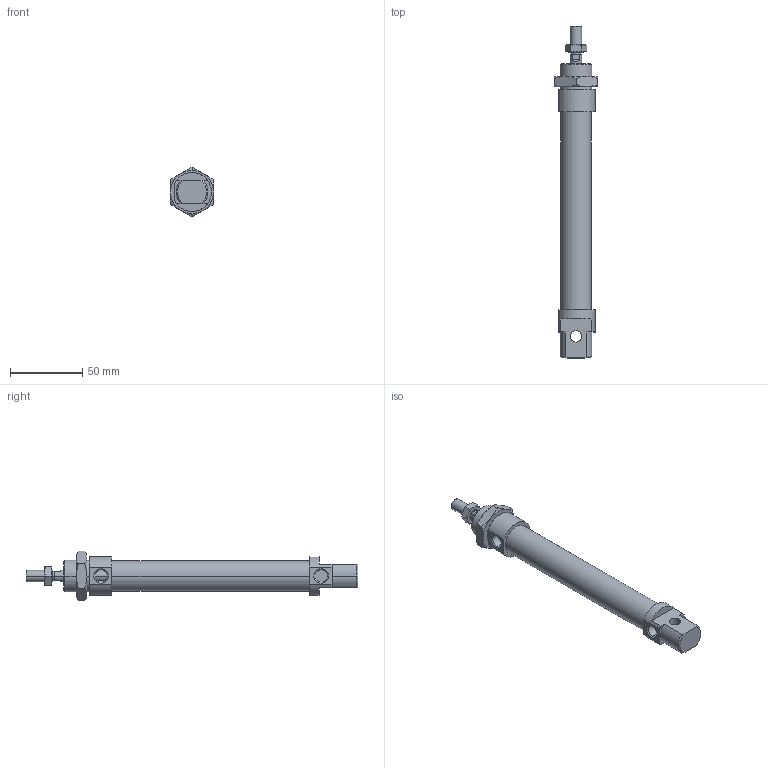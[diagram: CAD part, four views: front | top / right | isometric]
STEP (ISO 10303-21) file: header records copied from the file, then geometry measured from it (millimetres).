
FILE_DESCRIPTION((''),'2;1');
FILE_NAME('I:\DOC-EDP\Lib-3d\1200\CILINDRI\1280\1280_20_0100.stp','2003-04-07T15:52:55',('maffial1'),(''),'Autodesk Inventor (R) 6.0','Autodesk Inventor (R) 6.0','');
FILE_SCHEMA(('AUTOMOTIVE_DESIGN { 1 0 10303 214 1 1 1 1 }'));
Length unit declared in the file: millimetre
Products named in the file (5): 1280_20_0100; S1280_20_100; 1200_20_05; 1200_20_06; C1280_20_100
Assembly tree (4 placements, depth 2):
  1280_20_0100
    S1280_20_100
    1200_20_05
    1200_20_06
    C1280_20_100
Bounding box: 30 x 230 x 34.64 mm (x, y, z)
Volume: 79655.6 mm3; surface area: 26218.2 mm2
Topology: 4 solids, 4 shells, 124 faces, 281 edges, 170 vertices
Faces by surface type: plane 41, cone 40, cylinder 22, bspline 21
Entity records: 3816 total; most frequent: CARTESIAN_POINT 1039, DIRECTION 573, ORIENTED_EDGE 562, EDGE_CURVE 281, AXIS2_PLACEMENT_3D 236, VERTEX_POINT 170, EDGE_LOOP 137, FACE_OUTER_BOUND 124
